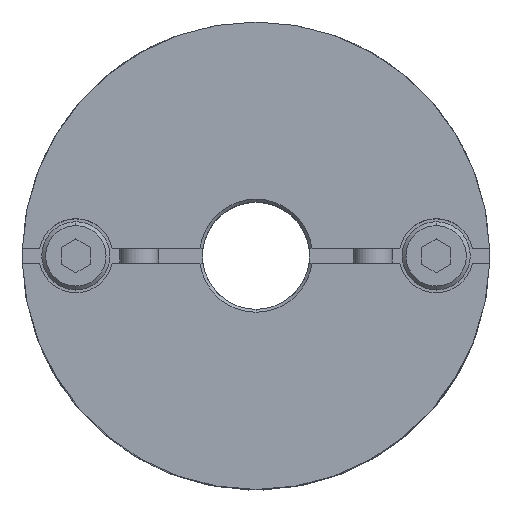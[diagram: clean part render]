
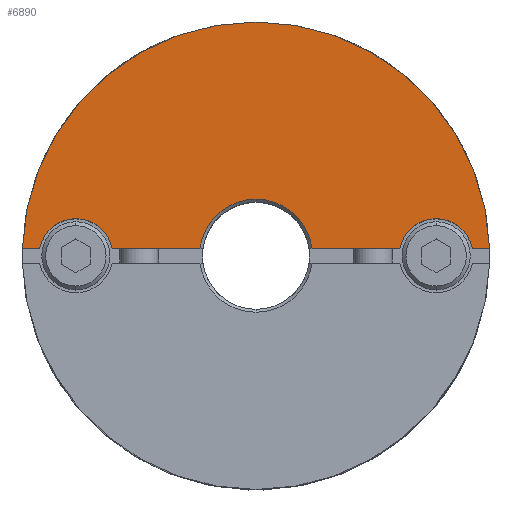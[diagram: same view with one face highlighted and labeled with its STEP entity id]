
A CAD part, top view. The second image highlights one B-rep face of the part: STEP entity #6890.
In plain terms, the highlighted planar face has unit normal (0, 0, 1).
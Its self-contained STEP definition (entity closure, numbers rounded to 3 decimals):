
#553=CARTESIAN_POINT('',(0.,5.8,19.3));
#554=VERTEX_POINT('',#553);
#563=CARTESIAN_POINT('',(-5.751,0.75,19.3));
#564=VERTEX_POINT('',#563);
#565=CARTESIAN_POINT('',(0.,0.,19.3));
#566=DIRECTION('',(0.0,0.0,1.0));
#567=DIRECTION('',(0.0,-1.0,0.0));
#568=AXIS2_PLACEMENT_3D('',#565,#566,#567);
#569=CIRCLE('',#568,5.8);
#570=EDGE_CURVE('',#554,#564,#569,.T.);
#742=CARTESIAN_POINT('',(0.,24.,19.3));
#743=VERTEX_POINT('',#742);
#827=CARTESIAN_POINT('',(-23.988,0.75,19.3));
#828=VERTEX_POINT('',#827);
#835=CARTESIAN_POINT('',(0.,0.,19.3));
#836=DIRECTION('',(0.0,0.0,-1.0));
#837=DIRECTION('',(0.0,1.0,0.0));
#838=AXIS2_PLACEMENT_3D('',#835,#836,#837);
#839=CIRCLE('',#838,24.0);
#840=EDGE_CURVE('',#828,#743,#839,.T.);
#1041=CARTESIAN_POINT('',(-18.5,3.8,19.3));
#1042=VERTEX_POINT('',#1041);
#1051=CARTESIAN_POINT('',(-22.225,0.75,19.3));
#1052=VERTEX_POINT('',#1051);
#1053=CARTESIAN_POINT('',(-18.5,0.,19.3));
#1054=DIRECTION('',(0.0,0.0,-1.0));
#1055=DIRECTION('',(0.0,1.0,0.0));
#1056=AXIS2_PLACEMENT_3D('',#1053,#1054,#1055);
#1057=CIRCLE('',#1056,3.8);
#1058=EDGE_CURVE('',#1052,#1042,#1057,.T.);
#1125=CARTESIAN_POINT('',(18.5,3.8,19.3));
#1126=VERTEX_POINT('',#1125);
#1135=CARTESIAN_POINT('',(14.775,0.75,19.3));
#1136=VERTEX_POINT('',#1135);
#1137=CARTESIAN_POINT('',(18.5,0.,19.3));
#1138=DIRECTION('',(0.0,0.0,-1.0));
#1139=DIRECTION('',(0.0,1.0,0.0));
#1140=AXIS2_PLACEMENT_3D('',#1137,#1138,#1139);
#1141=CIRCLE('',#1140,3.8);
#1142=EDGE_CURVE('',#1136,#1126,#1141,.T.);
#6566=CARTESIAN_POINT('',(22.225,0.75,19.3));
#6567=VERTEX_POINT('',#6566);
#6574=CARTESIAN_POINT('',(18.5,0.,19.3));
#6575=DIRECTION('',(0.0,0.0,-1.0));
#6576=DIRECTION('',(0.0,1.0,0.0));
#6577=AXIS2_PLACEMENT_3D('',#6574,#6575,#6576);
#6578=CIRCLE('',#6577,3.8);
#6579=EDGE_CURVE('',#1126,#6567,#6578,.T.);
#6632=CARTESIAN_POINT('',(-14.775,0.75,19.3));
#6633=VERTEX_POINT('',#6632);
#6640=CARTESIAN_POINT('',(-18.5,0.,19.3));
#6641=DIRECTION('',(0.0,0.0,-1.0));
#6642=DIRECTION('',(0.0,1.0,0.0));
#6643=AXIS2_PLACEMENT_3D('',#6640,#6641,#6642);
#6644=CIRCLE('',#6643,3.8);
#6645=EDGE_CURVE('',#1042,#6633,#6644,.T.);
#6664=CARTESIAN_POINT('',(23.988,0.75,19.3));
#6665=VERTEX_POINT('',#6664);
#6672=CARTESIAN_POINT('',(22.225,0.75,19.3));
#6673=DIRECTION('',(1.0,0.0,0.0));
#6674=VECTOR('',#6673,1.763);
#6675=LINE('',#6672,#6674);
#6676=EDGE_CURVE('',#6567,#6665,#6675,.T.);
#6687=CARTESIAN_POINT('',(5.751,0.75,19.3));
#6688=VERTEX_POINT('',#6687);
#6689=CARTESIAN_POINT('',(5.751,0.75,19.3));
#6690=DIRECTION('',(1.0,0.0,0.0));
#6691=VECTOR('',#6690,9.023);
#6692=LINE('',#6689,#6691);
#6693=EDGE_CURVE('',#6688,#1136,#6692,.T.);
#6849=CARTESIAN_POINT('',(0.,2.182,19.3));
#6850=DIRECTION('',(0.0,0.0,1.0));
#6851=DIRECTION('',(0.0,1.0,0.0));
#6852=AXIS2_PLACEMENT_3D('',#6849,#6850,#6851);
#6853=PLANE('',#6852);
#6854=ORIENTED_EDGE('',*,*,#1142,.T.);
#6855=ORIENTED_EDGE('',*,*,#6579,.T.);
#6856=ORIENTED_EDGE('',*,*,#6676,.T.);
#6857=CARTESIAN_POINT('',(0.,0.,19.3));
#6858=DIRECTION('',(0.0,0.0,-1.0));
#6859=DIRECTION('',(0.0,1.0,0.0));
#6860=AXIS2_PLACEMENT_3D('',#6857,#6858,#6859);
#6861=CIRCLE('',#6860,24.0);
#6862=EDGE_CURVE('',#743,#6665,#6861,.T.);
#6863=ORIENTED_EDGE('',*,*,#6862,.F.);
#6864=ORIENTED_EDGE('',*,*,#840,.F.);
#6865=CARTESIAN_POINT('',(-23.988,0.75,19.3));
#6866=DIRECTION('',(1.0,0.0,0.0));
#6867=VECTOR('',#6866,1.763);
#6868=LINE('',#6865,#6867);
#6869=EDGE_CURVE('',#828,#1052,#6868,.T.);
#6870=ORIENTED_EDGE('',*,*,#6869,.T.);
#6871=ORIENTED_EDGE('',*,*,#1058,.T.);
#6872=ORIENTED_EDGE('',*,*,#6645,.T.);
#6873=CARTESIAN_POINT('',(-14.775,0.75,19.3));
#6874=DIRECTION('',(1.0,0.0,0.0));
#6875=VECTOR('',#6874,9.023);
#6876=LINE('',#6873,#6875);
#6877=EDGE_CURVE('',#6633,#564,#6876,.T.);
#6878=ORIENTED_EDGE('',*,*,#6877,.T.);
#6879=ORIENTED_EDGE('',*,*,#570,.F.);
#6880=CARTESIAN_POINT('',(0.,0.,19.3));
#6881=DIRECTION('',(0.0,0.0,1.0));
#6882=DIRECTION('',(0.0,-1.0,0.0));
#6883=AXIS2_PLACEMENT_3D('',#6880,#6881,#6882);
#6884=CIRCLE('',#6883,5.8);
#6885=EDGE_CURVE('',#6688,#554,#6884,.T.);
#6886=ORIENTED_EDGE('',*,*,#6885,.F.);
#6887=ORIENTED_EDGE('',*,*,#6693,.T.);
#6888=EDGE_LOOP('',(#6854,#6855,#6856,#6863,#6864,#6870,#6871,#6872,#6878,#6879,#6886,#6887));
#6889=FACE_OUTER_BOUND('',#6888,.T.);
#6890=ADVANCED_FACE('',(#6889),#6853,.T.);
